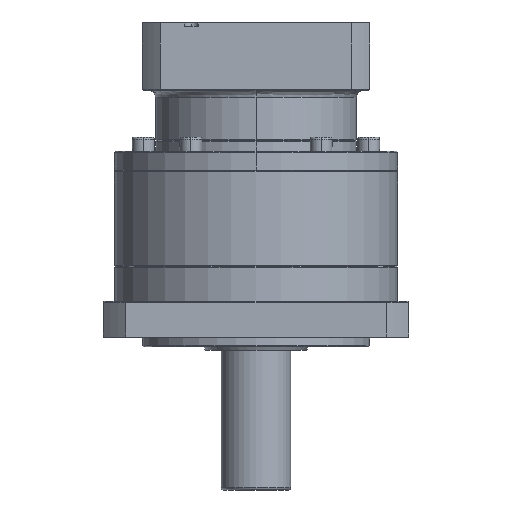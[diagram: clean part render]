
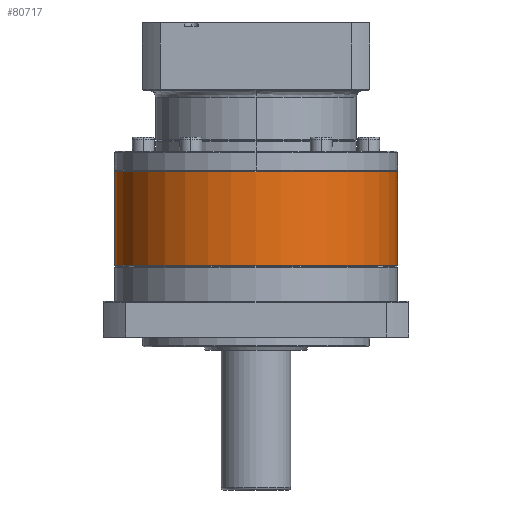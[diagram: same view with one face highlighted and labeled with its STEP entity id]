
A CAD part, front view. The second image highlights one B-rep face of the part: STEP entity #80717.
In plain terms, the highlighted cylindrical face has radius 81 mm (diameter 162 mm), a partial arc.
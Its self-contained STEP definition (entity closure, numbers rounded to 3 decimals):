
#1625 = VERTEX_POINT ( 'NONE', #25438 ) ;
#11760 = VERTEX_POINT ( 'NONE', #131195 ) ;
#15174 = CARTESIAN_POINT ( 'NONE',  ( -98.778, 102.107, -102.112 ) ) ;
#16871 = CARTESIAN_POINT ( 'NONE',  ( -98.778, 102.107, -48.612 ) ) ;
#23812 = DIRECTION ( 'NONE',  ( 0., 0., -1. ) ) ;
#25438 = CARTESIAN_POINT ( 'NONE',  ( -17.778, 102.107, -102.112 ) ) ;
#30327 = EDGE_CURVE ( 'NONE', #62368, #11760, #63930, .T. ) ;
#35131 = CIRCLE ( 'NONE', #119693, 81. ) ;
#35889 = EDGE_CURVE ( 'NONE', #37795, #1625, #73498, .T. ) ;
#37214 = CARTESIAN_POINT ( 'NONE',  ( -179.778, 102.107, -102.112 ) ) ;
#37795 = VERTEX_POINT ( 'NONE', #121184 ) ;
#38295 = DIRECTION ( 'NONE',  ( -1., 0., 0. ) ) ;
#38841 = ORIENTED_EDGE ( 'NONE', *, *, #43193, .F. ) ;
#43193 = EDGE_CURVE ( 'NONE', #11760, #37795, #97449, .T. ) ;
#44890 = VECTOR ( 'NONE', #131189, 1000. ) ;
#45263 = DIRECTION ( 'NONE',  ( 0., 1., 0. ) ) ;
#52420 = DIRECTION ( 'NONE',  ( 0., 0., -1. ) ) ;
#57793 = CARTESIAN_POINT ( 'NONE',  ( -98.778, 102.107, -48.612 ) ) ;
#58035 = CARTESIAN_POINT ( 'NONE',  ( -17.778, 102.107, -48.112 ) ) ;
#62368 = VERTEX_POINT ( 'NONE', #100471 ) ;
#63930 = CIRCLE ( 'NONE', #126044, 81. ) ;
#65461 = CYLINDRICAL_SURFACE ( 'NONE', #111590, 81. ) ;
#71784 = EDGE_CURVE ( 'NONE', #106345, #1625, #35131, .T. ) ;
#73185 = DIRECTION ( 'NONE',  ( 0., 0., 1. ) ) ;
#73498 = LINE ( 'NONE', #58035, #122106 ) ;
#77268 = EDGE_CURVE ( 'NONE', #62368, #106345, #111387, .T. ) ;
#80717 = ADVANCED_FACE ( 'NONE', ( #119416 ), #65461, .T. ) ;
#84867 = AXIS2_PLACEMENT_3D ( 'NONE', #16871, #73185, #109891 ) ;
#92545 = EDGE_LOOP ( 'NONE', ( #146472, #38841, #112513, #131763, #124076 ) ) ;
#97449 = CIRCLE ( 'NONE', #84867, 81. ) ;
#97640 = CARTESIAN_POINT ( 'NONE',  ( -98.778, 102.107, -48.112 ) ) ;
#100471 = CARTESIAN_POINT ( 'NONE',  ( -179.778, 102.107, -48.612 ) ) ;
#106345 = VERTEX_POINT ( 'NONE', #37214 ) ;
#107184 = DIRECTION ( 'NONE',  ( 0., 0., 1. ) ) ;
#109891 = DIRECTION ( 'NONE',  ( 0., 1., 0. ) ) ;
#110236 = DIRECTION ( 'NONE',  ( -1., 0., 0. ) ) ;
#111387 = LINE ( 'NONE', #120158, #44890 ) ;
#111590 = AXIS2_PLACEMENT_3D ( 'NONE', #97640, #52420, #110236 ) ;
#112513 = ORIENTED_EDGE ( 'NONE', *, *, #30327, .F. ) ;
#119416 = FACE_OUTER_BOUND ( 'NONE', #92545, .T. ) ;
#119693 = AXIS2_PLACEMENT_3D ( 'NONE', #15174, #107184, #38295 ) ;
#120158 = CARTESIAN_POINT ( 'NONE',  ( -179.778, 102.107, -48.112 ) ) ;
#121184 = CARTESIAN_POINT ( 'NONE',  ( -17.778, 102.107, -48.612 ) ) ;
#122106 = VECTOR ( 'NONE', #23812, 1000. ) ;
#124076 = ORIENTED_EDGE ( 'NONE', *, *, #71784, .T. ) ;
#126044 = AXIS2_PLACEMENT_3D ( 'NONE', #57793, #138134, #45263 ) ;
#131189 = DIRECTION ( 'NONE',  ( 0., 0., -1. ) ) ;
#131195 = CARTESIAN_POINT ( 'NONE',  ( -98.778, 21.107, -48.612 ) ) ;
#131763 = ORIENTED_EDGE ( 'NONE', *, *, #77268, .T. ) ;
#138134 = DIRECTION ( 'NONE',  ( 0., 0., 1. ) ) ;
#146472 = ORIENTED_EDGE ( 'NONE', *, *, #35889, .F. ) ;
